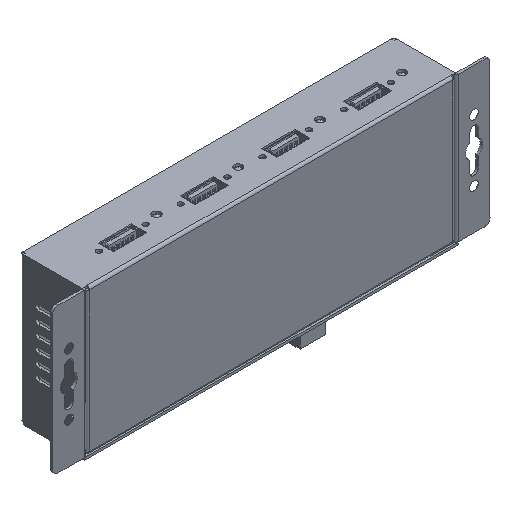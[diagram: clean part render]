
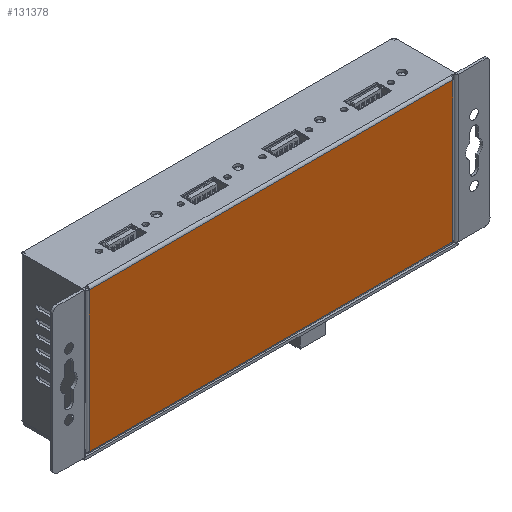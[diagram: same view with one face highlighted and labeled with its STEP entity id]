
A CAD part, isometric view. The second image highlights one B-rep face of the part: STEP entity #131378.
In plain terms, the highlighted planar face has unit normal (0, -1, 0).
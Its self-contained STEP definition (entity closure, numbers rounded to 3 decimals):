
#11542=FACE_OUTER_BOUND('',#18675,.T.);
#18675=EDGE_LOOP('',(#116770,#116771,#116772,#116773));
#33834=LINE('',#218352,#49524);
#33839=LINE('',#218369,#49529);
#33840=LINE('',#218375,#49530);
#33841=LINE('',#218376,#49531);
#49524=VECTOR('',#172720,10.);
#49529=VECTOR('',#172745,10.);
#49530=VECTOR('',#172754,10.);
#49531=VECTOR('',#172755,10.);
#62129=VERTEX_POINT('',#218338);
#62130=VERTEX_POINT('',#218342);
#62133=VERTEX_POINT('',#218368);
#62134=VERTEX_POINT('',#218374);
#80559=EDGE_CURVE('',#62129,#62130,#33834,.T.);
#80568=EDGE_CURVE('',#62133,#62129,#33839,.T.);
#80571=EDGE_CURVE('',#62130,#62134,#33840,.T.);
#80572=EDGE_CURVE('',#62134,#62133,#33841,.T.);
#116770=ORIENTED_EDGE('',*,*,#80559,.T.);
#116771=ORIENTED_EDGE('',*,*,#80571,.T.);
#116772=ORIENTED_EDGE('',*,*,#80572,.T.);
#116773=ORIENTED_EDGE('',*,*,#80568,.T.);
#125004=PLANE('',#140680);
#131378=ADVANCED_FACE('',(#11542),#125004,.T.);
#140680=AXIS2_PLACEMENT_3D('',#218373,#172752,#172753);
#172720=DIRECTION('',(1.,0.,0.));
#172745=DIRECTION('',(0.,0.,-1.));
#172752=DIRECTION('center_axis',(0.,-1.,0.));
#172753=DIRECTION('ref_axis',(1.,0.,0.));
#172754=DIRECTION('',(0.,0.,1.));
#172755=DIRECTION('',(-1.,0.,0.));
#218338=CARTESIAN_POINT('',(-3.52,-5.53,-55.895));
#218342=CARTESIAN_POINT('',(144.7,-5.53,-55.895));
#218352=CARTESIAN_POINT('',(33.535,-5.53,-55.895));
#218368=CARTESIAN_POINT('',(-3.52,-5.53,1.235));
#218369=CARTESIAN_POINT('',(-3.52,-5.53,-13.048));
#218373=CARTESIAN_POINT('Origin',(70.59,-5.53,-27.33));
#218374=CARTESIAN_POINT('',(144.7,-5.53,1.235));
#218375=CARTESIAN_POINT('',(144.7,-5.53,-42.118));
#218376=CARTESIAN_POINT('',(33.03,-5.53,1.235));
